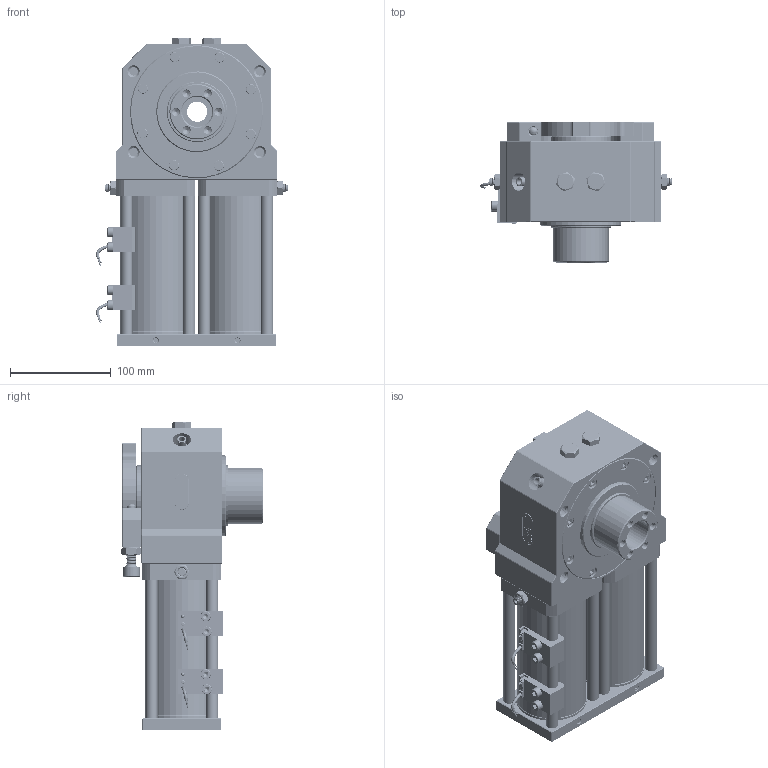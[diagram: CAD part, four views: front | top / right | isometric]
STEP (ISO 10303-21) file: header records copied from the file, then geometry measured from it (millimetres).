
FILE_DESCRIPTION((''),'2;1');
FILE_NAME('C:\Users\RND-KDY\Desktop\RJC63-90_190409.stp','2019-04-09T10:16:31',('RND-KDY'),(''),'Autodesk Inventor 2013','Autodesk Inventor 2013','');
FILE_SCHEMA(('AUTOMOTIVE_DESIGN { 1 0 10303 214 1 1 1 1 }'));
Length unit declared in the file: millimetre
Products named in the file (73): RJC63-90_190408; Part1; Part2; Part18; Part19; Part20; Part21; Part34; Part40; Part42; Part43; Part44; Part48; Part49; Part53; Part68; Part69; Part70; RJC63-90~12A_190401; 조립품2; Part25; Part26; Part27; Part28; RJC63-90~04_190401; 조립품4; Part3; Part4; Part5; Part6; Part7; Part8; Part9; Part10; Part11; Part61; Part62; Part63; Part67_1; RJC63-90~07_190401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
Assembly tree (82 placements, depth 5):
  RJC63-90_190408
    Part1
    Part2
    Part18
    Part19
    Part20
    Part21
    Part34
    Part40
    Part42
    Part43
    Part44
    Part48
    Part49
    Part53
    Part68
    Part69
    Part70
    RJC63-90~12A_190401
    조립품2
      Part25
      Part26
      Part27
      Part28
    RJC63-90~04_190401
    조립품4
      Part3
      Part4
      Part5
      Part6
      Part7
      Part8
      Part9
      Part10
      Part11
      Part61
      Part62
      Part63
      Part67_1
    RJC63-90~07_190401  x2
    RJC63-90~08_190401  x8
    j01n  x2
      조립품9
        어셈블리7_MIR
          HOUSING_MIR
          파트7_MIR
          Part51_MIR
          Part57_MIR
          Part57_1_MIR
          파트19_MIR
          3DM306_MIR
          파트30_MIR
        ISO 4762 M6 x 10  x2
        부품87
    조립품8
      Part12
      Part13
      Part14
      Part15
      Part16
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Bounding box: 190.29 x 139.81 x 306 mm (x, y, z)
Volume: 2301185.1 mm3; surface area: 552296.9 mm2
Topology: 108 solids, 108 shells, 6334 faces, 14935 edges, 9138 vertices
Faces by surface type: plane 4518, cone 911, cylinder 836, torus 47, sphere 16, bspline 6
Full cylindrical faces by diameter (mm): 2.1 x2, 2.8 x2, 3 x5, 3.12 x10, 3.8 x10, 4.134 x38, 4.16 x12, 4.917 x5, 5 x36, 5.2 x4, 6 x5, 6.5 x8, 6.614 x20, 6.647 x6, 7 x1, 8 x46, 8.268 x218, 8.5 x16, 9 x6, 10 x228, 10.2 x10, 11 x10, 12 x8, 13.6 x12, 14 x12, 17 x6, 18 x1, 20 x1, 28 x1, 30 x2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
Entity records: 166101 total; most frequent: CARTESIAN_POINT 28869, DIRECTION 27075, ORIENTED_EDGE 25374, EDGE_CURVE 12687, VECTOR 10609, LINE 10609, VERTEX_POINT 8703, AXIS2_PLACEMENT_3D 8233
